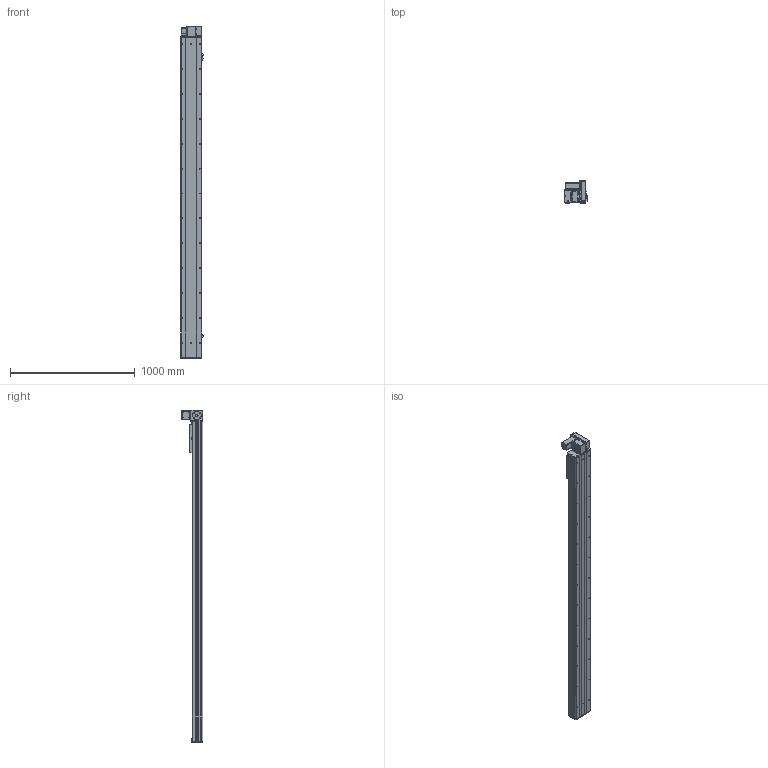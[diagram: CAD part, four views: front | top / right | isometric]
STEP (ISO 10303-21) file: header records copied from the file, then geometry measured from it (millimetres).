
FILE_DESCRIPTION (( 'STEP AP203' ), '1' );
FILE_NAME ('Y170CB-D105-S2250-UR-P400W.STEP', '2020-02-20T05:41:54', ( '微软用户' ), ( '微软中国' ), 'SwSTEP 2.0', 'SolidWorks 2017', '' );
FILE_SCHEMA (( 'CONFIG_CONTROL_DESIGN' ));
Length unit declared in the file: millimetre
Products named in the file (18): 0C--雄赽釱俋欶-170; 0B-萇儂楊擘啣; 70CB-詩湍--; san松下电机400不带刹车----; Y100-135俋离換覜ん--; 70CB-掛极-; Y170CB-陔俋离換覜結え---; --70CB --喘謫眊楊擘啣-; Y1埴倛裔; 70CB-耜裔啣-; 17B-耜蚾蟀諉啣----; 70C--詩湍揤踡え-; 00B-俋欶BM--163; 70CB--耜裔; 70B喘謫眊----; 70C-雄赽釱-奻-; B-源倛裔啣; Y170CB-D105-S2250-UR-P400W
Assembly tree (21 placements, depth 2):
  Y170CB-D105-S2250-UR-P400W
    B-源倛裔啣
    0B-萇儂楊擘啣
    san松下电机400不带刹车----
    70CB-掛极-
    --70CB --喘謫眊楊擘啣-
    70CB-耜裔啣-  x2
    70C--詩湍揤踡え-  x2
    70CB--耜裔
    70C-雄赽釱-奻-
    0C--雄赽釱俋欶-170
    70CB-詩湍--
    Y100-135俋离換覜ん--  x3
    Y170CB-陔俋离換覜結え---
    Y1埴倛裔
    17B-耜蚾蟀諉啣----
    00B-俋欶BM--163
    70B喘謫眊----
Bounding box: 183.5 x 174 x 2666 mm (x, y, z)
Volume: 11461567.2 mm3; surface area: 4135681.4 mm2
Topology: 21 solids, 21 shells, 1055 faces, 2837 edges, 1882 vertices
Faces by surface type: cylinder 569, plane 462, cone 24
Entity records: 33788 total; most frequent: CARTESIAN_POINT 6216, DIRECTION 5498, ORIENTED_EDGE 5156, EDGE_CURVE 2578, AXIS2_PLACEMENT_3D 2028, VERTEX_POINT 1712, VECTOR 1442, LINE 1442
